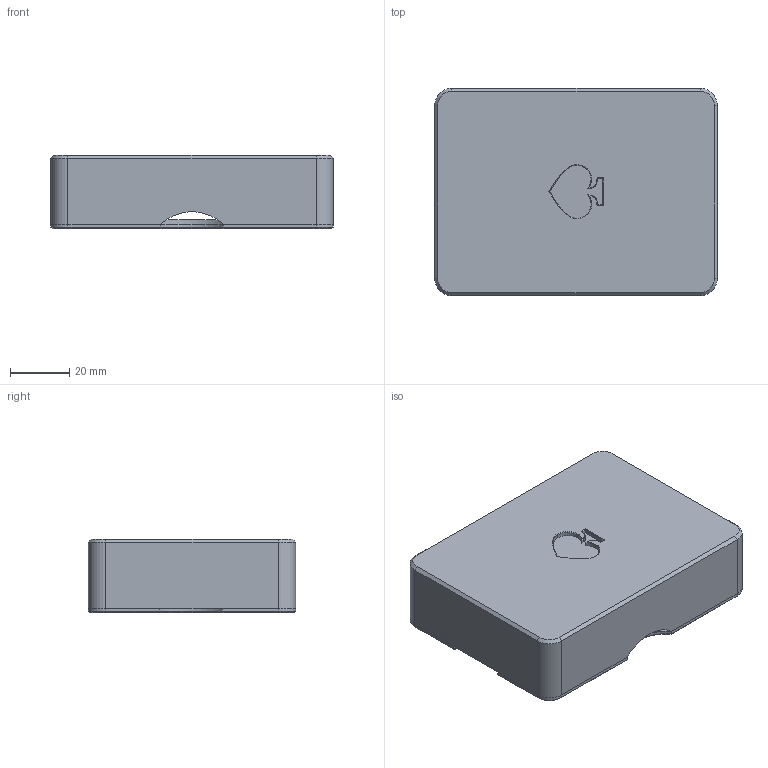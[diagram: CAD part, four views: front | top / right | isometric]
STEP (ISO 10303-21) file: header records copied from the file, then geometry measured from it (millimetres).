
FILE_DESCRIPTION(/* description */ (''),/* implementation_level */ '2;1');
FILE_NAME(/* name */ '/Users/mkoistinen/Desktop/3D Printing/Playing Card Box/Playing Card Box Spade/Playing Card Box Spade v3.step',/* time_stamp */ '2020-11-12T09:48:17-05:00',/* author */ (''),/* organization */ (''),/* preprocessor_version */ 'ST-DEVELOPER v18.1',/* originating_system */ 'Autodesk Translation Framework v9.3.0.1241',/* authorisation */ '');
FILE_SCHEMA (('AUTOMOTIVE_DESIGN { 1 0 10303 214 3 1 1 }'));
Length unit declared in the file: millimetre
Products named in the file (1): Playing Card Box Spade
Bounding box: 95.2 x 69.9 x 24.8 mm (x, y, z)
Volume: 43969.1 mm3; surface area: 49086 mm2
Topology: 2 solids, 2 shells, 154 faces, 392 edges, 243 vertices
Faces by surface type: plane 78, cylinder 36, cone 24, bspline 16
Entity records: 4943 total; most frequent: CARTESIAN_POINT 1283, ORIENTED_EDGE 784, DIRECTION 714, EDGE_CURVE 392, VERTEX_POINT 243, LINE 242, VECTOR 242, AXIS2_PLACEMENT_3D 236
